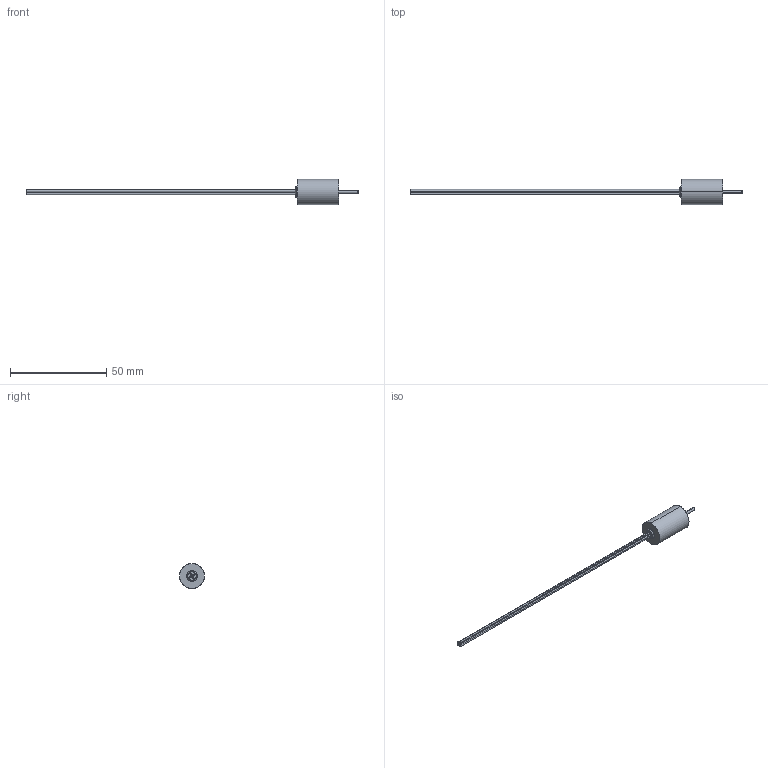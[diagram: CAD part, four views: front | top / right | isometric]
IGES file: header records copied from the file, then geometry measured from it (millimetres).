
Start section: SolidWorks IGES file using analytic representation for surfaces
Global section: file name: C:\Dokumente und Einstellungen\alessandroc\Desktop\MOT13.IGS; native system: SolidWorks 2012; preprocessor: SolidWorks 2012; author: AlessandroC; date: 120306.160235; units: millimetre
Bounding box: 172.5 x 13 x 13 mm (x, y, z)
Surface area: 3379.9 mm2 (no closed solid volume)
Topology: 0 solids, 0 shells, 76 faces, 1048 edges, 1044 vertices
Faces by surface type: revolution 44, bspline 32
